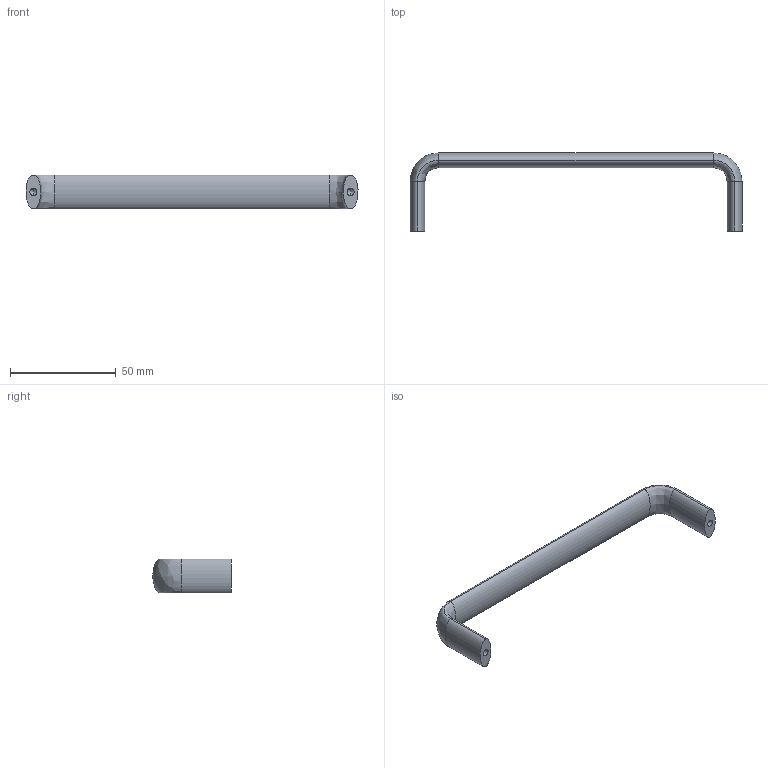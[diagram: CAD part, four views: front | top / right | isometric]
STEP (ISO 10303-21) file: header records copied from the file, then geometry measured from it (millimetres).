
FILE_DESCRIPTION (( 'STEP AP203' ), '1' );
FILE_NAME ('SK4-029-3.STEP', '2018-11-02T05:23:55', ( 'admin' ), ( 'Microsoft' ), 'SwSTEP 2.0', 'SolidWorks 2015', '' );
FILE_SCHEMA (( 'CONFIG_CONTROL_DESIGN' ));
Length unit declared in the file: millimetre
Products named in the file (1): SK4-029-3
Bounding box: 156.95 x 36.97 x 16 mm (x, y, z)
Volume: 18130.7 mm3; surface area: 8237.9 mm2
Topology: 1 solids, 1 shells, 20 faces, 42 edges, 22 vertices
Faces by surface type: bspline 10, cylinder 4, cone 4, plane 2
Entity records: 633 total; most frequent: CARTESIAN_POINT 219, ORIENTED_EDGE 76, DIRECTION 60, EDGE_CURVE 38, AXIS2_PLACEMENT_3D 23, VERTEX_POINT 22, EDGE_LOOP 22, ADVANCED_FACE 20
